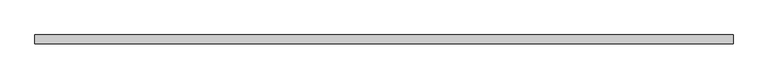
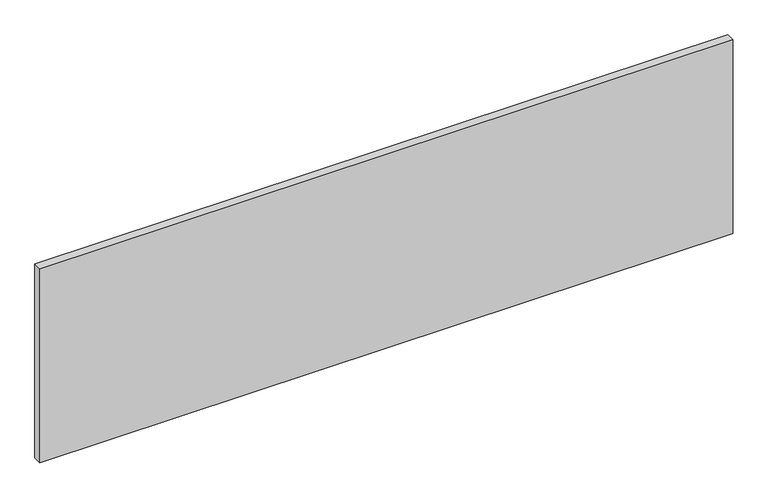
"""IFC4 building model written with IfcOpenShell, lengths in millimetres: plate geometry, Lod 200 Ritmica 930 Horizontal : Azuro."""

from ifc_helpers import new_model, si_unit, origin, origin_with_axes, place, context, project, spatial, polyline, outline, extrude, source, transform, mapped, element, save


def plate_2e5b18d4(model_context):
    return source(origin(), model_context, "Body", "SweptSolid", [
        extrude(outline(polyline([(1572.5, -40.0), (-1572.5, -40.0), (-1572.5, 0.0), (1572.5, 0.0), (1572.5, -40.0)])), origin_with_axes(), (0.0, 0.0, 1.0), 930.0),
    ])


if __name__ == "__main__":
    model = new_model("IFC4")
    model_context = context("Model", 3, world=origin())
    ifc_project = project(units=[si_unit("LENGTHUNIT", "METRE", prefix="MILLI")], contexts=[model_context])
    site = spatial("IfcSite", under=ifc_project)
    building = spatial("IfcBuilding", under=site)
    placement = place(None, origin())
    plate_shape = plate_2e5b18d4(model_context)
    element("IfcPlate", 1, ObjectType="Lod 200 Ritmica 930 Horizontal : Azuro", at=placement, inside=building, context=model_context, shape_type="MappedRepresentation", body=[
        mapped(plate_shape, transform((0.0, 0.0, 0.0), x_axis=(1.0, 0.0, 0.0), y_axis=(0.0, 1.0, 0.0), z_axis=(0.0, 0.0, 1.0))),
    ])
    save(model, "model.ifc")
